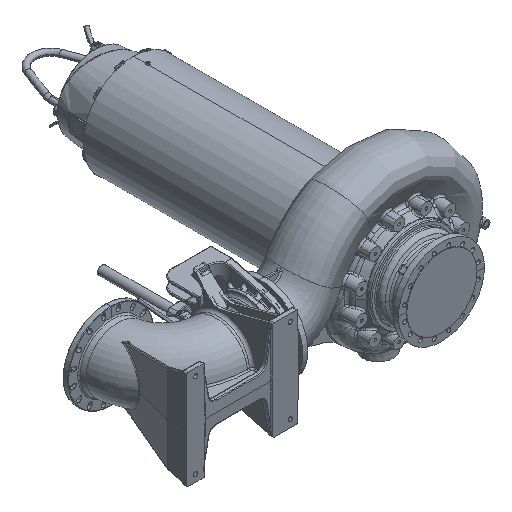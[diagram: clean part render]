
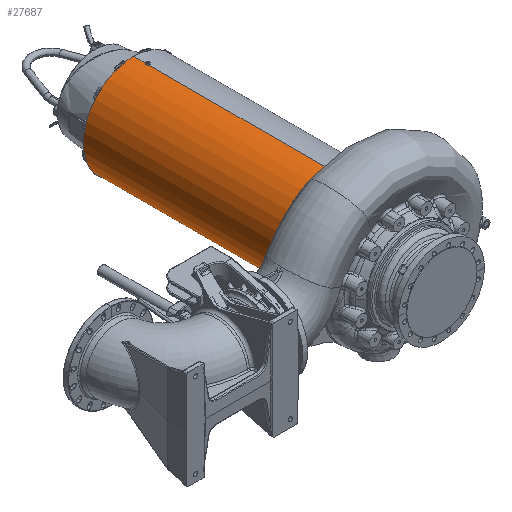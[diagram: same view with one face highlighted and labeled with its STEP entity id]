
A CAD part, isometric view. The second image highlights one B-rep face of the part: STEP entity #27687.
In plain terms, the highlighted cylindrical face has radius 344 mm (diameter 688 mm), a partial arc.
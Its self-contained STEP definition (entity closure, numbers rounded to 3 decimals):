
#703 = DIRECTION ( 'NONE',  ( 0., -1., 0. ) ) ;
#5092 = EDGE_LOOP ( 'NONE', ( #149043, #89873, #219643, #82795, #93220, #100683, #97083, #226792, #93803, #108686, #175443, #234746 ) ) ;
#6512 = CARTESIAN_POINT ( 'NONE',  ( -6.334, 1619.813, -343.956 ) ) ;
#10342 = CARTESIAN_POINT ( 'NONE',  ( 0., 1712.5, 344. ) ) ;
#14233 = CARTESIAN_POINT ( 'NONE',  ( -9.5, 1607.015, -343.869 ) ) ;
#16100 = CARTESIAN_POINT ( 'NONE',  ( -3.167, 1603.359, 344. ) ) ;
#17594 = CARTESIAN_POINT ( 'NONE',  ( 0., 387.5, 0. ) ) ;
#19431 = AXIS2_PLACEMENT_3D ( 'NONE', #290586, #248373, #273076 ) ;
#26245 = EDGE_CURVE ( 'NONE', #194155, #86907, #173242, .T. ) ;
#27687 = ADVANCED_FACE ( 'NONE', ( #227300 ), #134756, .T. ) ;
#31213 = EDGE_CURVE ( 'NONE', #239034, #114144, #180912, .T. ) ;
#36617 = CARTESIAN_POINT ( 'NONE',  ( 0., 387.5, -344. ) ) ;
#41362 = DIRECTION ( 'NONE',  ( 0., 0., -1. ) ) ;
#42091 = EDGE_CURVE ( 'NONE', #199953, #88318, #267192, .T. ) ;
#47345 = CARTESIAN_POINT ( 'NONE',  ( 0., 1601.53, -344. ) ) ;
#48238 = CARTESIAN_POINT ( 'NONE',  ( 0., 407.5, -344. ) ) ;
#51188 = EDGE_CURVE ( 'NONE', #141610, #204110, #241313, .T. ) ;
#52596 = VECTOR ( 'NONE', #703, 1000. ) ;
#55828 = CARTESIAN_POINT ( 'NONE',  ( -9.5, 1617.985, -343.869 ) ) ;
#64469 = CARTESIAN_POINT ( 'NONE',  ( 0., 407.5, 344. ) ) ;
#64730 = CARTESIAN_POINT ( 'NONE',  ( 0., 1601.53, 344. ) ) ;
#69125 = EDGE_CURVE ( 'NONE', #194155, #141610, #274942, .T. ) ;
#69207 = EDGE_CURVE ( 'NONE', #114144, #88318, #223177, .T. ) ;
#70370 = CARTESIAN_POINT ( 'NONE',  ( -9.5, 1852.849, -343.869 ) ) ;
#71559 = VERTEX_POINT ( 'NONE', #275303 ) ;
#76810 = CARTESIAN_POINT ( 'NONE',  ( -9.5, 1617.985, -343.869 ) ) ;
#82462 = CARTESIAN_POINT ( 'NONE',  ( 0., 1712.5, -344. ) ) ;
#82795 = ORIENTED_EDGE ( 'NONE', *, *, #241288, .F. ) ;
#84512 = CARTESIAN_POINT ( 'NONE',  ( 0., 1601.53, -344. ) ) ;
#86907 = VERTEX_POINT ( 'NONE', #292957 ) ;
#86938 = LINE ( 'NONE', #70370, #205448 ) ;
#88318 = VERTEX_POINT ( 'NONE', #36617 ) ;
#89873 = ORIENTED_EDGE ( 'NONE', *, *, #69125, .T. ) ;
#93220 = ORIENTED_EDGE ( 'NONE', *, *, #239027, .F. ) ;
#93803 = ORIENTED_EDGE ( 'NONE', *, *, #31213, .F. ) ;
#94138 = DIRECTION ( 'NONE',  ( 0., 1., 0. ) ) ;
#97083 = ORIENTED_EDGE ( 'NONE', *, *, #42091, .T. ) ;
#100105 = CARTESIAN_POINT ( 'NONE',  ( 0., 407.5, 344. ) ) ;
#100683 = ORIENTED_EDGE ( 'NONE', *, *, #235910, .F. ) ;
#104357 =( BOUNDED_CURVE ( )  B_SPLINE_CURVE ( 3, ( #249233, #129402, #131430, #296529 ),
 .UNSPECIFIED., .F., .F. ) 
 B_SPLINE_CURVE_WITH_KNOTS ( ( 4, 4 ),
 ( 4.685, 4.712 ),
 .UNSPECIFIED. ) 
 CURVE ( )  GEOMETRIC_REPRESENTATION_ITEM ( )  RATIONAL_B_SPLINE_CURVE ( ( 1., 1., 1., 1. ) ) 
 REPRESENTATION_ITEM ( '' )  );
#108686 = ORIENTED_EDGE ( 'NONE', *, *, #223790, .T. ) ;
#112290 = CARTESIAN_POINT ( 'NONE',  ( -6.334, 1605.187, 343.956 ) ) ;
#113607 = CARTESIAN_POINT ( 'NONE',  ( 0., 1623.47, -344. ) ) ;
#114144 = VERTEX_POINT ( 'NONE', #245733 ) ;
#120271 = CARTESIAN_POINT ( 'NONE',  ( 0., 1712.5, 0. ) ) ;
#123902 = DIRECTION ( 'NONE',  ( 0., -1., 0. ) ) ;
#127520 = VERTEX_POINT ( 'NONE', #55828 ) ;
#129402 = CARTESIAN_POINT ( 'NONE',  ( -6.334, 1619.813, 343.956 ) ) ;
#131430 = CARTESIAN_POINT ( 'NONE',  ( -3.167, 1621.641, 344. ) ) ;
#131985 = VERTEX_POINT ( 'NONE', #198754 ) ;
#133406 = VECTOR ( 'NONE', #235833, 1000. ) ;
#134756 = CYLINDRICAL_SURFACE ( 'NONE', #19431, 344. ) ;
#135386 = AXIS2_PLACEMENT_3D ( 'NONE', #17594, #183137, #41362 ) ;
#135820 = DIRECTION ( 'NONE',  ( 0., -1., 0. ) ) ;
#137779 = CARTESIAN_POINT ( 'NONE',  ( -9.5, 1852.849, 343.869 ) ) ;
#141513 = VECTOR ( 'NONE', #135820, 1000. ) ;
#141610 = VERTEX_POINT ( 'NONE', #82462 ) ;
#144068 = DIRECTION ( 'NONE',  ( 0., 0., -1. ) ) ;
#146422 =( BOUNDED_CURVE ( )  B_SPLINE_CURVE ( 3, ( #64730, #16100, #112290, #277654 ),
 .UNSPECIFIED., .F., .T. ) 
 B_SPLINE_CURVE_WITH_KNOTS ( ( 4, 4 ),
 ( 4.712, 4.74 ),
 .UNSPECIFIED. ) 
 CURVE ( )  GEOMETRIC_REPRESENTATION_ITEM ( )  RATIONAL_B_SPLINE_CURVE ( ( 1., 1., 1., 1. ) ) 
 REPRESENTATION_ITEM ( '' )  );
#147468 = VERTEX_POINT ( 'NONE', #215893 ) ;
#149043 = ORIENTED_EDGE ( 'NONE', *, *, #26245, .F. ) ;
#149279 = CARTESIAN_POINT ( 'NONE',  ( 0., 1623.47, -344. ) ) ;
#155961 = CARTESIAN_POINT ( 'NONE',  ( -6.334, 1605.187, -343.956 ) ) ;
#165826 = VECTOR ( 'NONE', #123902, 1000. ) ;
#173242 = LINE ( 'NONE', #100105, #165826 ) ;
#175443 = ORIENTED_EDGE ( 'NONE', *, *, #223311, .T. ) ;
#180912 = LINE ( 'NONE', #64469, #236318 ) ;
#183137 = DIRECTION ( 'NONE',  ( 0., -1., 0. ) ) ;
#183445 = DIRECTION ( 'NONE',  ( 0., -1., 0. ) ) ;
#188874 = AXIS2_PLACEMENT_3D ( 'NONE', #120271, #285444, #144068 ) ;
#192559 =( BOUNDED_CURVE ( )  B_SPLINE_CURVE ( 3, ( #84512, #249952, #155961, #14233 ),
 .UNSPECIFIED., .F., .F. ) 
 B_SPLINE_CURVE_WITH_KNOTS ( ( 4, 4 ),
 ( 4.712, 4.74 ),
 .UNSPECIFIED. ) 
 CURVE ( )  GEOMETRIC_REPRESENTATION_ITEM ( )  RATIONAL_B_SPLINE_CURVE ( ( 1., 1., 1., 1. ) ) 
 REPRESENTATION_ITEM ( '' )  );
#194155 = VERTEX_POINT ( 'NONE', #10342 ) ;
#198754 = CARTESIAN_POINT ( 'NONE',  ( -9.5, 1617.985, 343.869 ) ) ;
#199953 = VERTEX_POINT ( 'NONE', #47345 ) ;
#204110 = VERTEX_POINT ( 'NONE', #113607 ) ;
#205448 = VECTOR ( 'NONE', #94138, 1000. ) ;
#215893 = CARTESIAN_POINT ( 'NONE',  ( -9.5, 1607.015, -343.869 ) ) ;
#219643 = ORIENTED_EDGE ( 'NONE', *, *, #51188, .T. ) ;
#220127 = EDGE_CURVE ( 'NONE', #131985, #86907, #104357, .T. ) ;
#223177 = CIRCLE ( 'NONE', #135386, 344. ) ;
#223311 = EDGE_CURVE ( 'NONE', #71559, #131985, #259099, .T. ) ;
#223790 = EDGE_CURVE ( 'NONE', #239034, #71559, #146422, .T. ) ;
#226792 = ORIENTED_EDGE ( 'NONE', *, *, #69207, .F. ) ;
#227300 = FACE_OUTER_BOUND ( 'NONE', #5092, .T. ) ;
#234746 = ORIENTED_EDGE ( 'NONE', *, *, #220127, .T. ) ;
#235833 = DIRECTION ( 'NONE',  ( 0., 1., 0. ) ) ;
#235910 = EDGE_CURVE ( 'NONE', #199953, #147468, #192559, .T. ) ;
#236318 = VECTOR ( 'NONE', #183445, 1000. ) ;
#239027 = EDGE_CURVE ( 'NONE', #147468, #127520, #86938, .T. ) ;
#239034 = VERTEX_POINT ( 'NONE', #258539 ) ;
#241288 = EDGE_CURVE ( 'NONE', #127520, #204110, #242976, .T. ) ;
#241313 = LINE ( 'NONE', #48238, #52596 ) ;
#242976 =( BOUNDED_CURVE ( )  B_SPLINE_CURVE ( 3, ( #76810, #6512, #290607, #149279 ),
 .UNSPECIFIED., .F., .T. ) 
 B_SPLINE_CURVE_WITH_KNOTS ( ( 4, 4 ),
 ( 4.685, 4.712 ),
 .UNSPECIFIED. ) 
 CURVE ( )  GEOMETRIC_REPRESENTATION_ITEM ( )  RATIONAL_B_SPLINE_CURVE ( ( 1., 1., 1., 1. ) ) 
 REPRESENTATION_ITEM ( '' )  );
#245733 = CARTESIAN_POINT ( 'NONE',  ( 0., 387.5, 344. ) ) ;
#248373 = DIRECTION ( 'NONE',  ( 0., -1., 0. ) ) ;
#249233 = CARTESIAN_POINT ( 'NONE',  ( -9.5, 1617.985, 343.869 ) ) ;
#249952 = CARTESIAN_POINT ( 'NONE',  ( -3.167, 1603.359, -344. ) ) ;
#253588 = CARTESIAN_POINT ( 'NONE',  ( 0., 407.5, -344. ) ) ;
#258539 = CARTESIAN_POINT ( 'NONE',  ( 0., 1601.53, 344. ) ) ;
#259099 = LINE ( 'NONE', #137779, #133406 ) ;
#267192 = LINE ( 'NONE', #253588, #141513 ) ;
#273076 = DIRECTION ( 'NONE',  ( 0., 0., -1. ) ) ;
#274942 = CIRCLE ( 'NONE', #188874, 344. ) ;
#275303 = CARTESIAN_POINT ( 'NONE',  ( -9.5, 1607.015, 343.869 ) ) ;
#277654 = CARTESIAN_POINT ( 'NONE',  ( -9.5, 1607.015, 343.869 ) ) ;
#285444 = DIRECTION ( 'NONE',  ( 0., -1., 0. ) ) ;
#290586 = CARTESIAN_POINT ( 'NONE',  ( 0., 407.5, 0. ) ) ;
#290607 = CARTESIAN_POINT ( 'NONE',  ( -3.167, 1621.641, -344. ) ) ;
#292957 = CARTESIAN_POINT ( 'NONE',  ( 0., 1623.47, 344. ) ) ;
#296529 = CARTESIAN_POINT ( 'NONE',  ( 0., 1623.47, 344. ) ) ;
